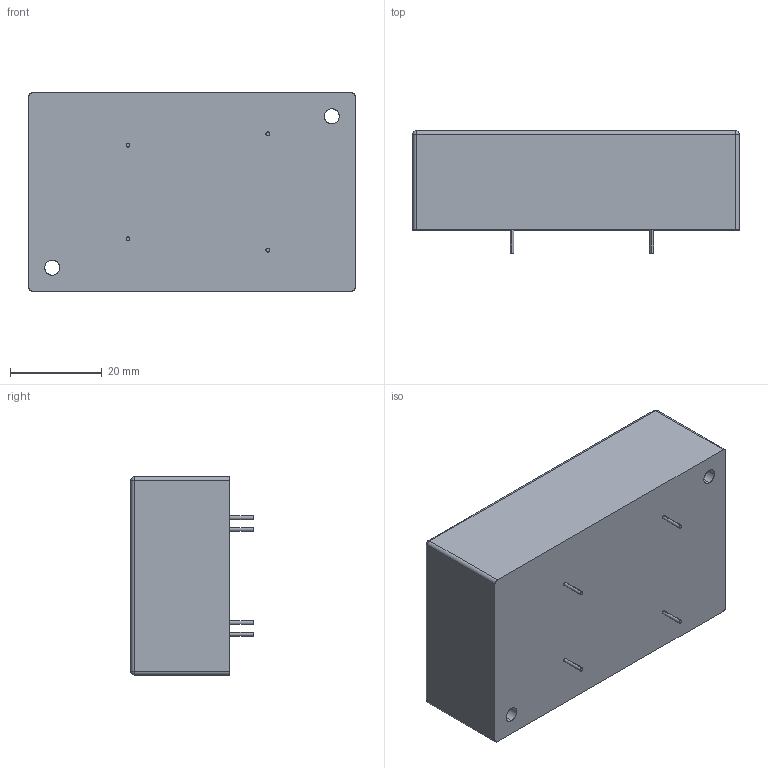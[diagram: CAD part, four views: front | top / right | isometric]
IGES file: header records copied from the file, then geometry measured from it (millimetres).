
Start section: SolidWorks IGES file using analytic representation for surfaces
Global section: file name: \\192.168.20.246\Eshare\Josh Moua\~For Darol\Checked .igs Files\F-Series\F02-F60.IGS; native system: SolidWorks 2017; preprocessor: SolidWorks 2017; author: asmith; date: 171031.105058; units: inch
Bounding box: 71.12 x 26.67 x 43.18 mm (x, y, z)
Surface area: 11433.1 mm2 (no closed solid volume)
Topology: 0 solids, 0 shells, 34 faces, 392 edges, 388 vertices
Faces by surface type: revolution 24, bspline 10
